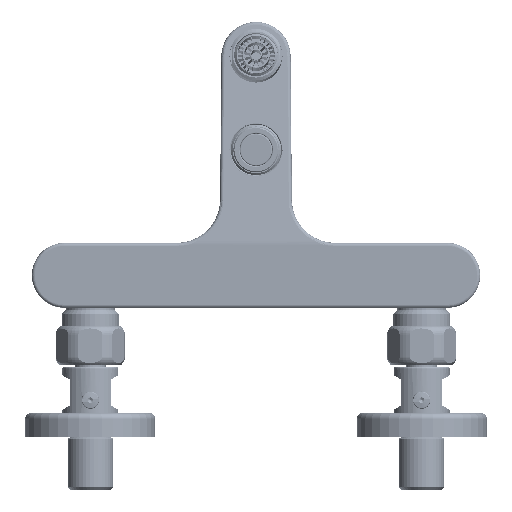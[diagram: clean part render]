
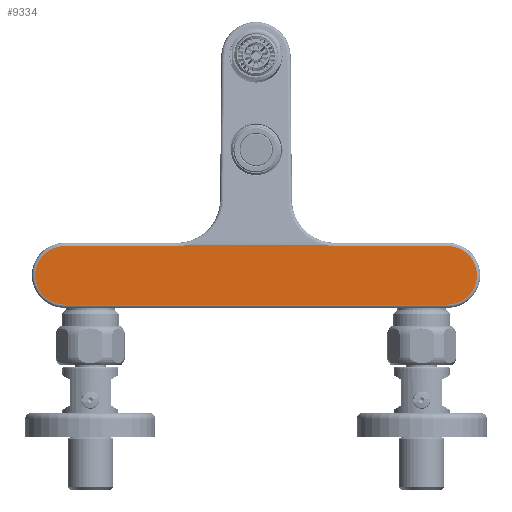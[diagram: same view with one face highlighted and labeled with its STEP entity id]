
A CAD part, front view. The second image highlights one B-rep face of the part: STEP entity #9334.
In plain terms, the highlighted planar face has unit normal (0, -1, 0).
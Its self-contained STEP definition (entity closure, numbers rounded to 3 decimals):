
#2=CARTESIAN_POINT('',(88.5,-19.,-6.));
#3=DIRECTION('',(0.,-1.,0.));
#4=DIRECTION('',(0.,0.,-1.));
#5=AXIS2_PLACEMENT_3D('',#2,#3,#4);
#7=DIRECTION('',(1.,0.,0.));
#8=VECTOR('',#7,177.);
#9=CARTESIAN_POINT('',(-88.5,-19.,-19.5));
#10=LINE('',#9,#8);
#11=CARTESIAN_POINT('',(-88.5,-19.,-6.));
#12=DIRECTION('',(0.,-1.,0.));
#13=DIRECTION('',(0.,0.,1.));
#14=AXIS2_PLACEMENT_3D('',#11,#12,#13);
#16=DIRECTION('',(-1.,0.,0.));
#17=VECTOR('',#16,51.922);
#18=CARTESIAN_POINT('',(-36.578,-19.,7.5));
#19=LINE('',#18,#17);
#20=CARTESIAN_POINT('',(-36.578,-19.,29.));
#21=DIRECTION('',(0.,1.,0.));
#22=DIRECTION('',(0.215,0.,-0.977));
#23=AXIS2_PLACEMENT_3D('',#20,#21,#22);
#25=DIRECTION('',(1.,0.,0.));
#26=VECTOR('',#25,63.891);
#27=CARTESIAN_POINT('',(-31.946,-19.,8.005));
#28=LINE('',#27,#26);
#29=CARTESIAN_POINT('',(36.578,-19.,29.));
#30=DIRECTION('',(0.,1.,0.));
#31=DIRECTION('',(0.,0.,-1.));
#32=AXIS2_PLACEMENT_3D('',#29,#30,#31);
#34=DIRECTION('',(-1.,0.,0.));
#35=VECTOR('',#34,51.922);
#36=CARTESIAN_POINT('',(88.5,-19.,7.5));
#37=LINE('',#36,#35);
#58=CARTESIAN_POINT('',(31.946,-19.,8.005));
#74=CARTESIAN_POINT('',(-31.946,-19.,8.005));
#8177=CARTESIAN_POINT('',(88.5,-19.,-19.5));
#8178=CARTESIAN_POINT('',(88.5,-19.,7.5));
#8179=VERTEX_POINT('',#8177);
#8180=VERTEX_POINT('',#8178);
#8185=CARTESIAN_POINT('',(36.578,-19.,7.5));
#8186=VERTEX_POINT('',#8185);
#8189=VERTEX_POINT('',#58);
#8207=VERTEX_POINT('',#74);
#8209=CARTESIAN_POINT('',(-36.578,-19.,7.5));
#8210=CARTESIAN_POINT('',(-88.5,-19.,7.5));
#8211=VERTEX_POINT('',#8209);
#8212=VERTEX_POINT('',#8210);
#8217=CARTESIAN_POINT('',(-88.5,-19.,-19.5));
#8218=VERTEX_POINT('',#8217);
#9311=CARTESIAN_POINT('',(0.,-19.,0.));
#9312=DIRECTION('',(0.,1.,0.));
#9313=DIRECTION('',(1.,0.,0.));
#9314=AXIS2_PLACEMENT_3D('',#9311,#9312,#9313);
#9315=PLANE('',#9314);
#9317=ORIENTED_EDGE('',*,*,#9316,.F.);
#9319=ORIENTED_EDGE('',*,*,#9318,.F.);
#9321=ORIENTED_EDGE('',*,*,#9320,.F.);
#9323=ORIENTED_EDGE('',*,*,#9322,.F.);
#9325=ORIENTED_EDGE('',*,*,#9324,.F.);
#9327=ORIENTED_EDGE('',*,*,#9326,.T.);
#9329=ORIENTED_EDGE('',*,*,#9328,.F.);
#9331=ORIENTED_EDGE('',*,*,#9330,.F.);
#9332=EDGE_LOOP('',(#9317,#9319,#9321,#9323,#9325,#9327,#9329,#9331));
#9333=FACE_OUTER_BOUND('',#9332,.F.);
#9334=ADVANCED_FACE('',(#9333),#9315,.F.);
#6=CIRCLE('',#5,13.5);
#15=CIRCLE('',#14,13.5);
#24=CIRCLE('',#23,21.5);
#33=CIRCLE('',#32,21.5);
#9316=EDGE_CURVE('',#8179,#8180,#6,.T.);
#9318=EDGE_CURVE('',#8218,#8179,#10,.T.);
#9320=EDGE_CURVE('',#8212,#8218,#15,.T.);
#9322=EDGE_CURVE('',#8211,#8212,#19,.T.);
#9324=EDGE_CURVE('',#8207,#8211,#24,.T.);
#9326=EDGE_CURVE('',#8207,#8189,#28,.T.);
#9328=EDGE_CURVE('',#8186,#8189,#33,.T.);
#9330=EDGE_CURVE('',#8180,#8186,#37,.T.);
